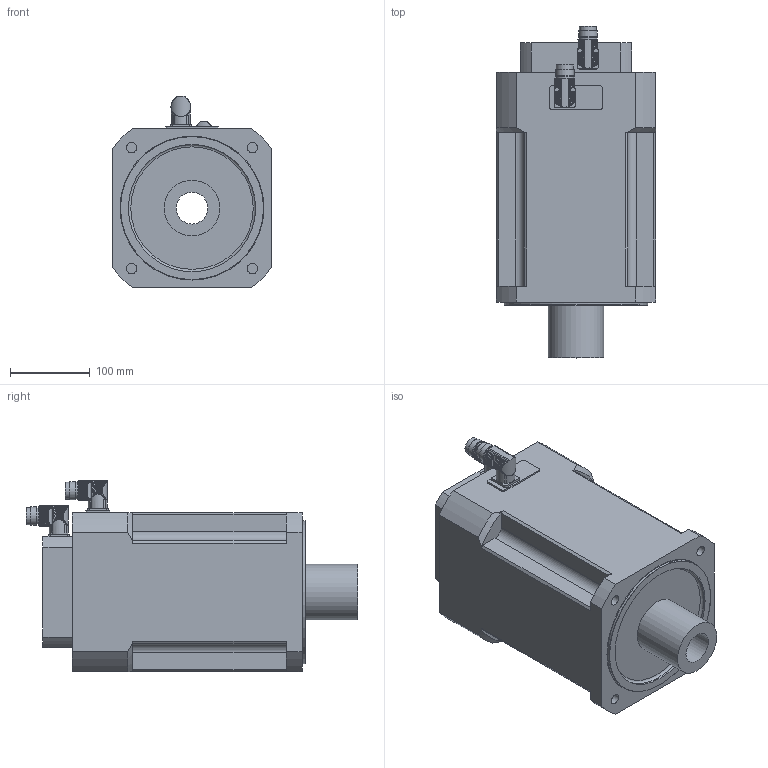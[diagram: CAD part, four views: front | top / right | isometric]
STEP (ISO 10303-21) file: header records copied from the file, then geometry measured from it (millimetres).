
FILE_DESCRIPTION(/* description */ (''),/* implementation_level */ '2;1');
FILE_NAME(/* name */ 'MH4264-Ux-Nxxx-Gxx-M0-P4',/* time_stamp */ '2008-08-29T13:45:36+02:00',/* author */ (''),/* organization */ (''),/* preprocessor_version */ 'ST-DEVELOPER v8',/* originating_system */ 'UNIGRAPHICS SOLUTIONS - UNIGRAPHICS 18.0',/* authorisation */ '');
FILE_SCHEMA (('AUTOMOTIVE_DESIGN { 1 2 10303 214 0 1 1 1 }'));
Length unit declared in the file: millimetre
Products named in the file (2): Winkelflanschdose_0; MH4264_Ux_Nxxx_Gxx_M0_P4_0
Assembly tree (2 placements, depth 2):
  MH4264_Ux_Nxxx_Gxx_M0_P4_0
    Winkelflanschdose_0  x2
Bounding box: 200 x 417.15 x 240.49 mm (x, y, z)
Volume: 11051468.2 mm3; surface area: 407598.7 mm2
Topology: 3 solids, 3 shells, 412 faces, 1159 edges, 773 vertices
Faces by surface type: cylinder 327, plane 78, cone 5, torus 2
Full cylindrical faces by diameter (mm): 13 x4, 16 x2, 20 x2, 21 x2, 21.5 x2, 23 x4, 40 x1, 50 x1, 70 x1, 160 x1, 180 x1
Entity records: 8334 total; most frequent: CARTESIAN_POINT 2016, ORIENTED_EDGE 1334, DIRECTION 1268, EDGE_CURVE 667, AXIS2_PLACEMENT_3D 498, VERTEX_POINT 456, EDGE_LOOP 291, LINE 272
